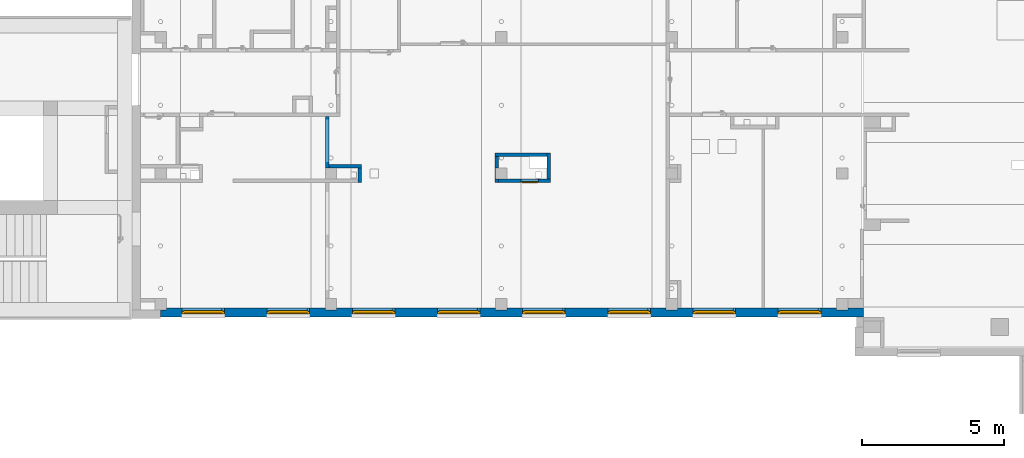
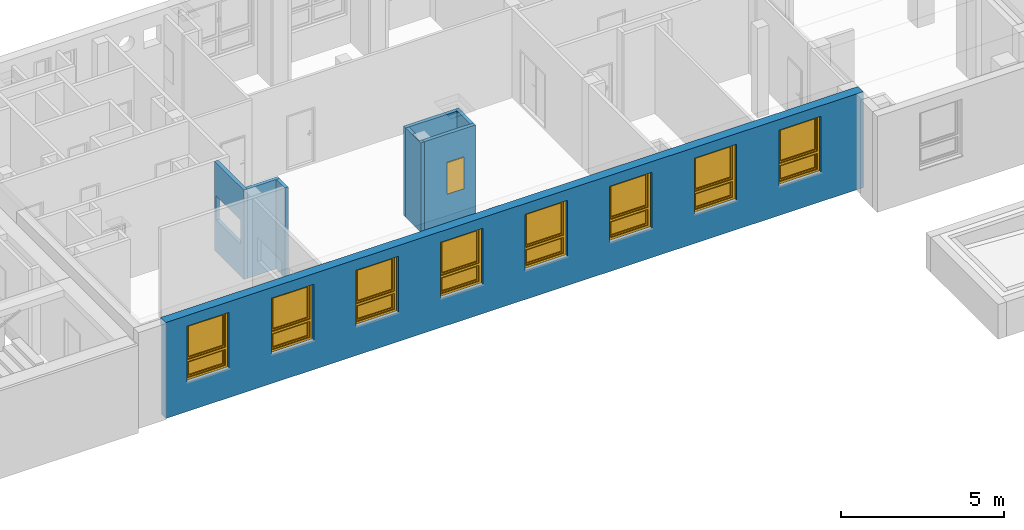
# One storey, part 12 of 50: 9 windows, 8 walls, 10 openings.
"""IFC4 building model written with IfcOpenShell, lengths in metres."""

from ifc_helpers import new_model, entity, si_unit, converted_unit, derived_unit, frame, frame_2d, origin, origin_with_axes, place, context, subcontext, project, spatial, polyline, rectangle, outline, extrude, clip, bounded_halfspace, closed_shell, open_shell, faceted_brep, surface_model, source, transform, mapped, material, layer, layer_set, layer_usage, element, fill, save


model = new_model("IFC4")

# Units and contexts
model_context = context("Model", 3, precision=1e-05, world=origin())
body_context = subcontext(model_context, "Body", "Model", "MODEL_VIEW")
ifc_project = project(units=[si_unit("LENGTHUNIT", "METRE"), si_unit("AREAUNIT", "SQUARE_METRE"), si_unit("VOLUMEUNIT", "CUBIC_METRE"), si_unit("MASSUNIT", "GRAM", prefix="KILO"), converted_unit("PLANEANGLEUNIT", "DEGREE", entity("IfcPlaneAngleMeasure", 0.0174532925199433), si_unit("PLANEANGLEUNIT", "RADIAN"), dimensions=[0, 0, 0, 0, 0, 0, 0]), derived_unit("THERMALTRANSMITTANCEUNIT", [(si_unit("POWERUNIT", "WATT"), 1), (si_unit("THERMODYNAMICTEMPERATUREUNIT", "KELVIN"), -1), (si_unit("LENGTHUNIT", "METRE"), -2)]), derived_unit("VOLUMETRICFLOWRATEUNIT", [(si_unit("LENGTHUNIT", "METRE"), 3), (converted_unit("TIMEUNIT", "hour", entity("IfcTimeMeasure", 3600.0), si_unit("TIMEUNIT", "SECOND"), dimensions=[0, 0, 1, 0, 0, 0, 0]), -1), (si_unit("LENGTHUNIT", "METRE"), -1)])], contexts=[model_context])

# Site, building, storey
site_placement = place(None, origin())
site = spatial("IfcSite", under=ifc_project, at=site_placement, Name="3. ASŘ", CompositionType="ELEMENT")
building_placement = place(site_placement, origin())
building = spatial("IfcBuilding", under=site, at=building_placement, Name="Pavilon C", CompositionType="ELEMENT")
storey_placement = place(building_placement, frame((0.0, 0.0, 3.6)))
storey = spatial("IfcBuildingStorey", under=building, at=storey_placement, Name="Půdorys 2.NP", CompositionType="ELEMENT", Elevation=3.6)

# Wall, openings, windows
ifc_material_1 = material(Name="ZELEZOBETONOVÁ KCE")
ifc_layer_1 = layer(ifc_material_1, 0.32)
ifc_layer_set_1 = layer_set([ifc_layer_1])
ifc_layer_usage_1 = layer_usage(ifc_layer_set_1, "AXIS2", "POSITIVE", 0.0)
wall_1_placement = place(storey_placement, frame((3.86535248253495e-15, 0.350000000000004, -0.1)))
wall_1 = element("IfcWall", 1, at=wall_1_placement, inside=storey, material=ifc_layer_usage_1, Name="ZELEZOBETONOVÁ KCE", context=body_context, shape_type="Clipping", body=[
    clip(clip(clip(clip(clip(extrude(rectangle(XDim=24.75, YDim=0.32, at=frame_2d((12.375, 0.16), x_axis=(1.0, 0.0))), origin_with_axes(), (0.0, 0.0, 1.0), 3.6), bounded_halfspace(frame((0.100000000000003, 0.285, 3.35), z_axis=(0.0, 0.0, 1.0), x_axis=(1.0, 0.0, 0.0)), True, origin_with_axes(), polyline([(-2.27373675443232e-16, 0.25), (0.200000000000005, 0.25), (0.200000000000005, 0.32), (-2.27373675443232e-16, 0.32), (-2.27373675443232e-16, 0.25)]))), bounded_halfspace(frame((24.0, 0.284999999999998, 3.35), z_axis=(0.0, 0.0, 1.0), x_axis=(0.0, -1.0, 0.0)), True, origin_with_axes(), polyline([(23.8, 0.32), (23.8, 0.249999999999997), (24.2, 0.249999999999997), (24.2, 0.32), (23.8, 0.32)]))), bounded_halfspace(frame((12.0, 0.284999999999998, 3.35), z_axis=(0.0, 0.0, 1.0), x_axis=(0.0, -1.0, 0.0)), True, origin_with_axes(), polyline([(11.8, 0.32), (11.8, 0.249999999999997), (12.2, 0.249999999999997), (12.2, 0.32), (11.8, 0.32)]))), bounded_halfspace(frame((6.00000000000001, 0.284999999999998, 3.35), z_axis=(0.0, 0.0, 1.0), x_axis=(-1.0, 0.0, 0.0)), True, origin_with_axes(), polyline([(6.20000000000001, 0.32), (5.80000000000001, 0.32), (5.80000000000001, 0.249999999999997), (6.20000000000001, 0.249999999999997), (6.20000000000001, 0.32)]))), bounded_halfspace(frame((18.0, 0.284999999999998, 3.35), z_axis=(0.0, 0.0, 1.0), x_axis=(-1.0, 0.0, 0.0)), True, origin_with_axes(), polyline([(18.2, 0.32), (17.8, 0.32), (17.8, 0.249999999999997), (18.2, 0.249999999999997), (18.2, 0.32)]))),
])
opening_1_placement = place(wall_1_placement, frame((0.75, 0.0, 1.1), z_axis=(0.0, 1.0, 0.0), x_axis=(0.0, 0.0, 1.0)))
opening_1 = element("IfcOpeningElement", 2, at=opening_1_placement, cuts=wall_1, Name="Okenní otvor", ObjectType="Opening", context=body_context, shape_type="SweptSolid", body=[
    extrude(outline(polyline([(0.0, 1.5), (2.1, 1.5), (2.1, 0.0), (0.0, 0.0), (0.0, 1.5)])), origin_with_axes(), (0.0, 0.0, 1.0), 0.32),
])
opening_2_placement = place(wall_1_placement, frame((21.75, 0.0, 1.1), z_axis=(0.0, 1.0, 0.0), x_axis=(0.0, 0.0, 1.0)))
opening_2 = element("IfcOpeningElement", 3, at=opening_2_placement, cuts=wall_1, Name="Okenní otvor", ObjectType="Opening", context=body_context, shape_type="SweptSolid", body=[
    extrude(outline(polyline([(0.0, 1.5), (2.1, 1.5), (2.1, 0.0), (0.0, 0.0), (0.0, 1.5)])), origin_with_axes(), (0.0, 0.0, 1.0), 0.32),
])
opening_3_placement = place(wall_1_placement, frame((3.75, 0.0, 1.1), z_axis=(0.0, 1.0, 0.0), x_axis=(0.0, 0.0, 1.0)))
opening_3 = element("IfcOpeningElement", 4, at=opening_3_placement, cuts=wall_1, Name="Okenní otvor", ObjectType="Opening", context=body_context, shape_type="SweptSolid", body=[
    extrude(outline(polyline([(0.0, 1.5), (2.1, 1.5), (2.1, 0.0), (0.0, 0.0), (0.0, 1.5)])), origin_with_axes(), (0.0, 0.0, 1.0), 0.32),
])
opening_4_placement = place(wall_1_placement, frame((6.75, 0.0, 1.1), z_axis=(0.0, 1.0, 0.0), x_axis=(0.0, 0.0, 1.0)))
opening_4 = element("IfcOpeningElement", 5, at=opening_4_placement, cuts=wall_1, Name="Okenní otvor", ObjectType="Opening", context=body_context, shape_type="SweptSolid", body=[
    extrude(outline(polyline([(0.0, 1.5), (2.1, 1.5), (2.1, 0.0), (0.0, 0.0), (0.0, 1.5)])), origin_with_axes(), (0.0, 0.0, 1.0), 0.32),
])
opening_5_placement = place(wall_1_placement, frame((9.75, 0.0, 1.1), z_axis=(0.0, 1.0, 0.0), x_axis=(0.0, 0.0, 1.0)))
opening_5 = element("IfcOpeningElement", 6, at=opening_5_placement, cuts=wall_1, Name="Okenní otvor", ObjectType="Opening", context=body_context, shape_type="SweptSolid", body=[
    extrude(outline(polyline([(0.0, 1.5), (2.1, 1.5), (2.1, 0.0), (0.0, 0.0), (0.0, 1.5)])), origin_with_axes(), (0.0, 0.0, 1.0), 0.32),
])
opening_6_placement = place(wall_1_placement, frame((12.75, 0.0, 1.1), z_axis=(0.0, 1.0, 0.0), x_axis=(0.0, 0.0, 1.0)))
opening_6 = element("IfcOpeningElement", 7, at=opening_6_placement, cuts=wall_1, Name="Okenní otvor", ObjectType="Opening", context=body_context, shape_type="SweptSolid", body=[
    extrude(outline(polyline([(0.0, 1.5), (2.1, 1.5), (2.1, 0.0), (0.0, 0.0), (0.0, 1.5)])), origin_with_axes(), (0.0, 0.0, 1.0), 0.32),
])
opening_7_placement = place(wall_1_placement, frame((15.75, 0.0, 1.1), z_axis=(0.0, 1.0, 0.0), x_axis=(0.0, 0.0, 1.0)))
opening_7 = element("IfcOpeningElement", 8, at=opening_7_placement, cuts=wall_1, Name="Okenní otvor", ObjectType="Opening", context=body_context, shape_type="SweptSolid", body=[
    extrude(outline(polyline([(0.0, 1.5), (2.1, 1.5), (2.1, 0.0), (0.0, 0.0), (0.0, 1.5)])), origin_with_axes(), (0.0, 0.0, 1.0), 0.32),
])
opening_8_placement = place(wall_1_placement, frame((18.75, 0.0, 1.1), z_axis=(0.0, 1.0, 0.0), x_axis=(0.0, 0.0, 1.0)))
opening_8 = element("IfcOpeningElement", 9, at=opening_8_placement, cuts=wall_1, Name="Okenní otvor", ObjectType="Opening", context=body_context, shape_type="SweptSolid", body=[
    extrude(outline(polyline([(0.0, 1.5), (2.1, 1.5), (2.1, 0.0), (0.0, 0.0), (0.0, 1.5)])), origin_with_axes(), (0.0, 0.0, 1.0), 0.32),
])
shared_shape_1 = source(origin_with_axes(), body_context, "Body", "SurfaceModel", [
    surface_model("IfcShellBasedSurfaceModel", [(0.0, 0.182, 2.1), (0.0, 0.182, -5.63337527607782e-18), (0.08, 0.182, -5.63337527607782e-18), (0.08, 0.182, 2.1), (0.0, 0.0899999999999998, 5.63337527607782e-18), (0.0, 0.0900000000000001, 2.1), (0.08, 0.0900000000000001, 2.1), (0.08, 0.0899999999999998, 5.63337527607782e-18)], [closed_shell([[[0, 1, 2, 3]], [[4, 5, 6, 7]], [[1, 0, 5, 4]], [[2, 1, 4, 7]], [[3, 2, 7, 6]], [[0, 3, 6, 5]]], orient=[[False], [False], [False], [False], [False], [False]])]),
    surface_model("IfcShellBasedSurfaceModel", [(1.42, 0.182, 2.1), (1.42, 0.182, -5.63337527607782e-18), (1.5, 0.182, -5.63337527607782e-18), (1.5, 0.182, 2.1), (1.42, 0.0899999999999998, 5.63337527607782e-18), (1.42, 0.0900000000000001, 2.1), (1.5, 0.0900000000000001, 2.1), (1.5, 0.0899999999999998, 5.63337527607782e-18)], [closed_shell([[[0, 1, 2, 3]], [[4, 5, 6, 7]], [[1, 0, 5, 4]], [[2, 1, 4, 7]], [[3, 2, 7, 6]], [[0, 3, 6, 5]]], orient=[[False], [False], [False], [False], [False], [False]])]),
    surface_model("IfcShellBasedSurfaceModel", [(0.08, 0.182, 0.08), (0.08, 0.182, -5.63337527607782e-18), (1.42, 0.182, -5.63337527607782e-18), (1.42, 0.182, 0.08), (0.08, 0.0899999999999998, 5.63337527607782e-18), (0.08, 0.0899999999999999, 0.08), (1.42, 0.0899999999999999, 0.08), (1.42, 0.0899999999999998, 5.63337527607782e-18)], [closed_shell([[[0, 1, 2, 3]], [[4, 5, 6, 7]], [[1, 0, 5, 4]], [[2, 1, 4, 7]], [[3, 2, 7, 6]], [[0, 3, 6, 5]]], orient=[[False], [False], [False], [False], [False], [False]])]),
    surface_model("IfcShellBasedSurfaceModel", [(0.08, 0.182, 2.1), (0.08, 0.182, 2.02), (1.42, 0.182, 2.02), (1.42, 0.182, 2.1), (0.08, 0.0900000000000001, 2.02), (0.08, 0.0900000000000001, 2.1), (1.42, 0.0900000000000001, 2.1), (1.42, 0.0900000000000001, 2.02)], [closed_shell([[[0, 1, 2, 3]], [[4, 5, 6, 7]], [[1, 0, 5, 4]], [[2, 1, 4, 7]], [[3, 2, 7, 6]], [[0, 3, 6, 5]]], orient=[[False], [False], [False], [False], [False], [False]])]),
    surface_model("IfcShellBasedSurfaceModel", [(0.08, 0.182, 0.76), (0.08, 0.182, 0.68), (1.42, 0.182, 0.68), (1.42, 0.182, 0.76), (0.08, 0.0899999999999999, 0.68), (0.08, 0.0899999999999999, 0.76), (1.42, 0.0899999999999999, 0.76), (1.42, 0.0899999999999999, 0.68)], [closed_shell([[[0, 1, 2, 3]], [[4, 5, 6, 7]], [[1, 0, 5, 4]], [[2, 1, 4, 7]], [[3, 2, 7, 6]], [[0, 3, 6, 5]]], orient=[[False], [False], [False], [False], [False], [False]])]),
    surface_model("IfcShellBasedSurfaceModel", [(0.05, 0.145, 0.71), (0.05, 0.145, 0.05), (0.13, 0.145, 0.05), (0.13, 0.145, 0.71), (0.05, 0.0599999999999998, 0.05), (0.05, 0.0599999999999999, 0.71), (0.13, 0.0599999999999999, 0.71), (0.13, 0.0599999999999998, 0.05)], [closed_shell([[[0, 1, 2, 3]], [[4, 5, 6, 7]], [[1, 0, 5, 4]], [[2, 1, 4, 7]], [[3, 2, 7, 6]], [[0, 3, 6, 5]]], orient=[[False], [False], [False], [False], [False], [False]])]),
    surface_model("IfcShellBasedSurfaceModel", [(1.37, 0.145, 0.71), (1.37, 0.145, 0.05), (1.45, 0.145, 0.05), (1.45, 0.145, 0.71), (1.37, 0.0599999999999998, 0.05), (1.37, 0.0599999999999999, 0.71), (1.45, 0.0599999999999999, 0.71), (1.45, 0.0599999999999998, 0.05)], [closed_shell([[[0, 1, 2, 3]], [[4, 5, 6, 7]], [[1, 0, 5, 4]], [[2, 1, 4, 7]], [[3, 2, 7, 6]], [[0, 3, 6, 5]]], orient=[[False], [False], [False], [False], [False], [False]])]),
    surface_model("IfcShellBasedSurfaceModel", [(0.13, 0.145, 0.13), (0.13, 0.145, 0.05), (1.37, 0.145, 0.05), (1.37, 0.145, 0.13), (0.13, 0.0599999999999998, 0.05), (0.13, 0.0599999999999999, 0.13), (1.37, 0.0599999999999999, 0.13), (1.37, 0.0599999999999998, 0.05)], [closed_shell([[[0, 1, 2, 3]], [[4, 5, 6, 7]], [[1, 0, 5, 4]], [[2, 1, 4, 7]], [[3, 2, 7, 6]], [[0, 3, 6, 5]]], orient=[[False], [False], [False], [False], [False], [False]])]),
    surface_model("IfcShellBasedSurfaceModel", [(0.13, 0.145, 0.71), (0.13, 0.145, 0.63), (1.37, 0.145, 0.63), (1.37, 0.145, 0.71), (0.13, 0.0599999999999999, 0.63), (0.13, 0.0599999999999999, 0.71), (1.37, 0.0599999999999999, 0.71), (1.37, 0.0599999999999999, 0.63)], [closed_shell([[[0, 1, 2, 3]], [[4, 5, 6, 7]], [[1, 0, 5, 4]], [[2, 1, 4, 7]], [[3, 2, 7, 6]], [[0, 3, 6, 5]]], orient=[[False], [False], [False], [False], [False], [False]])]),
    surface_model("IfcShellBasedSurfaceModel", [(0.05, 0.145, 2.05), (0.05, 0.145, 0.73), (0.13, 0.145, 0.73), (0.13, 0.145, 2.05), (0.05, 0.0599999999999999, 0.73), (0.05, 0.0600000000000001, 2.05), (0.13, 0.0600000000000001, 2.05), (0.13, 0.0599999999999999, 0.73)], [closed_shell([[[0, 1, 2, 3]], [[4, 5, 6, 7]], [[1, 0, 5, 4]], [[2, 1, 4, 7]], [[3, 2, 7, 6]], [[0, 3, 6, 5]]], orient=[[False], [False], [False], [False], [False], [False]])]),
    surface_model("IfcShellBasedSurfaceModel", [(1.37, 0.145, 2.05), (1.37, 0.145, 0.73), (1.45, 0.145, 0.73), (1.45, 0.145, 2.05), (1.37, 0.0599999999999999, 0.73), (1.37, 0.0600000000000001, 2.05), (1.45, 0.0600000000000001, 2.05), (1.45, 0.0599999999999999, 0.73)], [closed_shell([[[0, 1, 2, 3]], [[4, 5, 6, 7]], [[1, 0, 5, 4]], [[2, 1, 4, 7]], [[3, 2, 7, 6]], [[0, 3, 6, 5]]], orient=[[False], [False], [False], [False], [False], [False]])]),
    surface_model("IfcShellBasedSurfaceModel", [(0.13, 0.145, 0.81), (0.13, 0.145, 0.73), (1.37, 0.145, 0.73), (1.37, 0.145, 0.81), (0.13, 0.0599999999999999, 0.73), (0.13, 0.0599999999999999, 0.81), (1.37, 0.0599999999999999, 0.81), (1.37, 0.0599999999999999, 0.73)], [closed_shell([[[0, 1, 2, 3]], [[4, 5, 6, 7]], [[1, 0, 5, 4]], [[2, 1, 4, 7]], [[3, 2, 7, 6]], [[0, 3, 6, 5]]], orient=[[False], [False], [False], [False], [False], [False]])]),
    surface_model("IfcShellBasedSurfaceModel", [(0.13, 0.145, 2.05), (0.13, 0.145, 1.97), (1.37, 0.145, 1.97), (1.37, 0.145, 2.05), (0.13, 0.0600000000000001, 1.97), (0.13, 0.0600000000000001, 2.05), (1.37, 0.0600000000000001, 2.05), (1.37, 0.0600000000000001, 1.97)], [closed_shell([[[0, 1, 2, 3]], [[4, 5, 6, 7]], [[1, 0, 5, 4]], [[2, 1, 4, 7]], [[3, 2, 7, 6]], [[0, 3, 6, 5]]], orient=[[False], [False], [False], [False], [False], [False]])]),
    surface_model("IfcShellBasedSurfaceModel", [(0.0775, 0.06, 1.41), (0.0775, 0.06, 1.37), (0.1025, 0.06, 1.37), (0.1025, 0.06, 1.41), (0.0775, 0.05, 1.37), (0.0775, 0.05, 1.41), (0.1025, 0.05, 1.41), (0.1025, 0.05, 1.37)], [closed_shell([[[0, 1, 2, 3]], [[4, 5, 6, 7]], [[1, 0, 5, 4]], [[2, 1, 4, 7]], [[3, 2, 7, 6]], [[0, 3, 6, 5]]], orient=[[False], [False], [False], [False], [False], [False]])]),
    surface_model("IfcShellBasedSurfaceModel", [(0.1, 0.05, 1.39), (0.0986602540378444, 0.05, 1.395), (0.095, 0.05, 1.39866025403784), (0.09, 0.05, 1.4), (0.085, 0.05, 1.39866025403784), (0.0813397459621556, 0.05, 1.395), (0.08, 0.05, 1.39), (0.0813397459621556, 0.05, 1.385), (0.085, 0.05, 1.38133974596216), (0.09, 0.05, 1.38), (0.095, 0.05, 1.38133974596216), (0.0986602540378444, 0.05, 1.385), (0.1, 0.01, 1.39), (0.0986602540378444, 0.00500000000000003, 1.395), (0.095, 0.00133974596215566, 1.39866025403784), (0.09, 2.8421709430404e-17, 1.4), (0.085, 0.00133974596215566, 1.39866025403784), (0.0813397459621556, 0.00500000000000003, 1.395), (0.08, 0.01, 1.39), (0.0813397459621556, 0.015, 1.385), (0.085, 0.0186602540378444, 1.38133974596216), (0.09, 0.02, 1.38), (0.095, 0.0186602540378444, 1.38133974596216), (0.0986602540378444, 0.015, 1.385), (0.1, 0.01, 1.275), (0.0986602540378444, 0.005, 1.275), (0.095, 0.00133974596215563, 1.275), (0.09, 0.0, 1.275), (0.085, 0.00133974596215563, 1.275), (0.0813397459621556, 0.005, 1.275), (0.08, 0.01, 1.275), (0.0813397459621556, 0.015, 1.275), (0.085, 0.0186602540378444, 1.275), (0.09, 0.02, 1.275), (0.095, 0.0186602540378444, 1.275), (0.0986602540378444, 0.015, 1.275)], [open_shell([[[0, 1, 2, 3, 4, 5, 6, 7, 8, 9, 10, 11]], [[0, 12, 13, 1]], [[1, 13, 14, 2]], [[2, 14, 15, 3]], [[3, 15, 16, 4]], [[4, 16, 17, 5]], [[5, 17, 18, 6]], [[6, 18, 19, 7]], [[7, 19, 20, 8]], [[8, 20, 21, 9]], [[9, 21, 22, 10]], [[10, 22, 23, 11]], [[11, 23, 12, 0]], [[12, 24, 25, 13]], [[13, 25, 26, 14]], [[14, 26, 27, 15]], [[15, 27, 28, 16]], [[16, 28, 29, 17]], [[17, 29, 30, 18]], [[18, 30, 31, 19]], [[19, 31, 32, 20]], [[20, 32, 33, 21]], [[21, 33, 34, 22]], [[22, 34, 35, 23]], [[23, 35, 24, 12]]], orient=[[False], [False], [False], [False], [False], [False], [False], [False], [False], [False], [False], [False], [False], [False], [False], [False], [False], [False], [False], [False], [False], [False], [False], [False], [False]])]),
    surface_model("IfcShellBasedSurfaceModel", [(0.13, 0.1025, 0.13), (1.37, 0.1025, 0.13), (1.37, 0.1025, 0.63), (0.13, 0.1025, 0.63)], [open_shell([[[0, 1, 2, 3]]], orient=[[False]])]),
    surface_model("IfcShellBasedSurfaceModel", [(0.13, 0.1025, 0.81), (1.37, 0.1025, 0.81), (1.37, 0.1025, 1.97), (0.13, 0.1025, 1.97)], [open_shell([[[0, 1, 2, 3]]], orient=[[False]])]),
])
window_1_placement = place(opening_1_placement, frame((0.0, 1.5, 0.282), z_axis=(1.0, 0.0, 0.0), x_axis=(0.0, -1.0, 1.22464679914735e-16)))
window_1 = element("IfcWindow", 10, at=window_1_placement, inside=storey, Name="O06", OverallHeight=2.1, OverallWidth=1.5, PartitioningType="USERDEFINED", PredefinedType="WINDOW", context=body_context, shape_type="MappedRepresentation", body=[
    mapped(shared_shape_1, transform((0.0, 0.0, 0.0), x_axis=(1.0, 0.0, 0.0), y_axis=(0.0, 1.0, 0.0), z_axis=(0.0, 0.0, 1.0), scale=1.0)),
])
fill(opening_1, window_1)
window_2_placement = place(opening_2_placement, frame((0.0, 1.5, 0.282), z_axis=(1.0, 0.0, 0.0), x_axis=(0.0, -1.0, 1.22464679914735e-16)))
window_2 = element("IfcWindow", 11, at=window_2_placement, inside=storey, Name="O06", OverallHeight=2.1, OverallWidth=1.5, PartitioningType="USERDEFINED", PredefinedType="WINDOW", context=body_context, shape_type="MappedRepresentation", body=[
    mapped(shared_shape_1, transform((0.0, 0.0, 0.0), x_axis=(1.0, 0.0, 0.0), y_axis=(0.0, 1.0, 0.0), z_axis=(0.0, 0.0, 1.0), scale=1.0)),
])
fill(opening_2, window_2)
window_3_placement = place(opening_3_placement, frame((0.0, 1.5, 0.282), z_axis=(1.0, 0.0, 0.0), x_axis=(0.0, -1.0, 1.22464679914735e-16)))
window_3 = element("IfcWindow", 12, at=window_3_placement, inside=storey, Name="O06", OverallHeight=2.1, OverallWidth=1.5, PartitioningType="USERDEFINED", PredefinedType="WINDOW", context=body_context, shape_type="MappedRepresentation", body=[
    mapped(shared_shape_1, transform((0.0, 0.0, 0.0), x_axis=(1.0, 0.0, 0.0), y_axis=(0.0, 1.0, 0.0), z_axis=(0.0, 0.0, 1.0), scale=1.0)),
])
fill(opening_3, window_3)
window_4_placement = place(opening_4_placement, frame((0.0, 1.5, 0.282), z_axis=(1.0, 0.0, 0.0), x_axis=(0.0, -0.999999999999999, 1.22464679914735e-16)))
window_4 = element("IfcWindow", 13, at=window_4_placement, inside=storey, Name="O06", OverallHeight=2.1, OverallWidth=1.5, PartitioningType="USERDEFINED", PredefinedType="WINDOW", context=body_context, shape_type="MappedRepresentation", body=[
    mapped(shared_shape_1, transform((0.0, 0.0, 0.0), x_axis=(1.0, 0.0, 0.0), y_axis=(0.0, 1.0, 0.0), z_axis=(0.0, 0.0, 1.0), scale=0.999999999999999)),
])
fill(opening_4, window_4)
window_5_placement = place(opening_5_placement, frame((0.0, 1.5, 0.282), z_axis=(1.0, 0.0, 0.0), x_axis=(0.0, -1.0, 1.22464679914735e-16)))
window_5 = element("IfcWindow", 14, at=window_5_placement, inside=storey, Name="O06", OverallHeight=2.1, OverallWidth=1.5, PartitioningType="USERDEFINED", PredefinedType="WINDOW", context=body_context, shape_type="MappedRepresentation", body=[
    mapped(shared_shape_1, transform((0.0, 0.0, 0.0), x_axis=(1.0, 0.0, 0.0), y_axis=(0.0, 1.0, 0.0), z_axis=(0.0, 0.0, 1.0), scale=1.0)),
])
fill(opening_5, window_5)
window_6_placement = place(opening_6_placement, frame((0.0, 1.5, 0.282), z_axis=(1.0, 0.0, 0.0), x_axis=(0.0, -1.0, 1.22464679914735e-16)))
window_6 = element("IfcWindow", 15, at=window_6_placement, inside=storey, Name="O06", OverallHeight=2.1, OverallWidth=1.5, PartitioningType="USERDEFINED", PredefinedType="WINDOW", context=body_context, shape_type="MappedRepresentation", body=[
    mapped(shared_shape_1, transform((0.0, 0.0, 0.0), x_axis=(1.0, 0.0, 0.0), y_axis=(0.0, 1.0, 0.0), z_axis=(0.0, 0.0, 1.0), scale=1.0)),
])
fill(opening_6, window_6)
window_7_placement = place(opening_7_placement, frame((0.0, 1.5, 0.282), z_axis=(1.0, 0.0, 0.0), x_axis=(0.0, -1.0, 1.22464679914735e-16)))
window_7 = element("IfcWindow", 16, at=window_7_placement, inside=storey, Name="O06", OverallHeight=2.1, OverallWidth=1.5, PartitioningType="USERDEFINED", PredefinedType="WINDOW", context=body_context, shape_type="MappedRepresentation", body=[
    mapped(shared_shape_1, transform((0.0, 0.0, 0.0), x_axis=(1.0, 0.0, 0.0), y_axis=(0.0, 1.0, 0.0), z_axis=(0.0, 0.0, 1.0), scale=1.0)),
])
fill(opening_7, window_7)
window_8_placement = place(opening_8_placement, frame((0.0, 1.5, 0.282), z_axis=(1.0, 0.0, 0.0), x_axis=(0.0, -1.0, 1.22464679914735e-16)))
window_8 = element("IfcWindow", 17, at=window_8_placement, inside=storey, Name="O06", OverallHeight=2.1, OverallWidth=1.5, PartitioningType="USERDEFINED", PredefinedType="WINDOW", context=body_context, shape_type="MappedRepresentation", body=[
    mapped(shared_shape_1, transform((0.0, 0.0, 0.0), x_axis=(1.0, 0.0, 0.0), y_axis=(0.0, 1.0, 0.0), z_axis=(0.0, 0.0, 1.0), scale=1.0)),
])
fill(opening_8, window_8)

# Wall, opening, window
ifc_material_2 = material(Name="ZDIVO Z CDm")
ifc_layer_2 = layer(ifc_material_2, 0.125)
ifc_layer_set_2 = layer_set([ifc_layer_2])
ifc_layer_usage_2 = layer_usage(ifc_layer_set_2, "AXIS2", "POSITIVE", 0.0)
wall_2_placement = place(storey_placement, frame((13.725, 5.2, -0.1), z_axis=(0.0, 0.0, 1.0), x_axis=(-1.0, 0.0, 0.0)))
wall_2 = element("IfcWall", 18, at=wall_2_placement, inside=storey, material=ifc_layer_usage_2, Name="ZDIVO Z CDm", context=body_context, shape_type="SweptSolid", body=[
    extrude(rectangle(XDim=1.825, YDim=0.125, at=frame_2d((0.9125, 0.0625), x_axis=(1.0, 0.0))), origin_with_axes(), (0.0, 0.0, 1.0), 3.35),
])
opening_9_placement = place(wall_2_placement, frame((1.025, 0.125, 1.1), z_axis=(0.0, -1.0, 0.0), x_axis=(0.0, 0.0, 1.0)))
opening_9 = element("IfcOpeningElement", 19, at=opening_9_placement, cuts=wall_2, Name="Okenní otvor", ObjectType="Opening", context=body_context, shape_type="SweptSolid", body=[
    extrude(outline(polyline([(0.0, 0.6), (1.2, 0.6), (1.2, 0.0), (0.0, 0.0), (0.0, 0.6)])), origin_with_axes(), (0.0, 0.0, 1.0), 0.125),
])
shared_shape_2 = source(origin_with_axes(), body_context, "Body", "Brep", [
    faceted_brep([(0.0, 0.0600000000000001, 1.2), (0.0, 0.06, 4.91096680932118e-19), (0.02, 0.06, 4.91096680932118e-19), (0.02, 0.0600000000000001, 1.2), (0.0, 0.01, 6.61433067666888e-18), (0.0, 0.0100000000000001, 1.2), (0.02, 0.0100000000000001, 1.2), (0.02, 0.01, 6.61433067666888e-18)], [[[0, 1, 2, 3]], [[4, 5, 6, 7]], [[1, 0, 5, 4]], [[2, 1, 4, 7]], [[3, 2, 7, 6]], [[0, 3, 6, 5]]], orient=[[False], [False], [False], [False], [False], [False]]),
    faceted_brep([(0.58, 0.0600000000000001, 1.2), (0.58, 0.06, 4.91096680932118e-19), (0.6, 0.06, 4.91096680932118e-19), (0.6, 0.0600000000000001, 1.2), (0.58, 0.01, 6.61433067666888e-18), (0.58, 0.0100000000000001, 1.2), (0.6, 0.0100000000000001, 1.2), (0.6, 0.01, 6.61433067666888e-18)], [[[0, 1, 2, 3]], [[4, 5, 6, 7]], [[1, 0, 5, 4]], [[2, 1, 4, 7]], [[3, 2, 7, 6]], [[0, 3, 6, 5]]], orient=[[False], [False], [False], [False], [False], [False]]),
    faceted_brep([(0.02, 0.06, 0.02), (0.02, 0.06, 4.91096680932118e-19), (0.58, 0.06, 4.91096680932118e-19), (0.58, 0.06, 0.02), (0.02, 0.01, 6.61433067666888e-18), (0.02, 0.01, 0.02), (0.58, 0.01, 0.02), (0.58, 0.01, 6.61433067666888e-18)], [[[0, 1, 2, 3]], [[4, 5, 6, 7]], [[1, 0, 5, 4]], [[2, 1, 4, 7]], [[3, 2, 7, 6]], [[0, 3, 6, 5]]], orient=[[False], [False], [False], [False], [False], [False]]),
    faceted_brep([(0.02, 0.0600000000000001, 1.2), (0.02, 0.0600000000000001, 1.18), (0.58, 0.0600000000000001, 1.18), (0.58, 0.0600000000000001, 1.2), (0.02, 0.0100000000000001, 1.18), (0.02, 0.0100000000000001, 1.2), (0.58, 0.0100000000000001, 1.2), (0.58, 0.0100000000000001, 1.18)], [[[0, 1, 2, 3]], [[4, 5, 6, 7]], [[1, 0, 5, 4]], [[2, 1, 4, 7]], [[3, 2, 7, 6]], [[0, 3, 6, 5]]], orient=[[False], [False], [False], [False], [False], [False]]),
    faceted_brep([(0.02, 0.0100000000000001, 1.18), (0.02, 0.01, 0.02), (0.58, 0.01, 0.02), (0.58, 0.0100000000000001, 1.18), (0.02, 0.0, 0.02), (0.02, 1.4210854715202e-16, 1.18), (0.58, 1.4210854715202e-16, 1.18), (0.58, 0.0, 0.02)], [[[0, 1, 2, 3]], [[4, 5, 6, 7]], [[1, 0, 5, 4]], [[2, 1, 4, 7]], [[3, 2, 7, 6]], [[0, 3, 6, 5]]], orient=[[False], [False], [False], [False], [False], [False]]),
])
window_9_placement = place(opening_9_placement, frame((0.0, 0.6, -0.01), z_axis=(1.0, 0.0, 0.0), x_axis=(0.0, -1.0, 0.0)))
window_9 = element("IfcWindow", 20, at=window_9_placement, inside=storey, Name="O01", OverallHeight=1.2, OverallWidth=0.6, PartitioningType="USERDEFINED", PredefinedType="WINDOW", context=body_context, shape_type="MappedRepresentation", body=[
    mapped(shared_shape_2, transform((0.0, 0.0, 0.0), x_axis=(1.0, 0.0, 0.0), y_axis=(0.0, -1.0, 0.0), z_axis=(0.0, 0.0, 1.0), scale=1.0)),
])
fill(opening_9, window_9)

# Walls
ifc_material_3 = material(Name="ZDIVO Z CDm")
ifc_layer_3 = layer(ifc_material_3, 0.125)
ifc_layer_set_3 = layer_set([ifc_layer_3])
ifc_layer_usage_3 = layer_usage(ifc_layer_set_3, "AXIS2", "POSITIVE", 0.0)
wall_3_placement = place(storey_placement, frame((13.6, 6.125, -0.1), z_axis=(0.0, 0.0, 1.0), x_axis=(0.0, -1.0, 0.0)))
element("IfcWall", 21, at=wall_3_placement, inside=storey, material=ifc_layer_usage_3, Name="ZDIVO Z CDm", context=body_context, shape_type="SweptSolid", body=[
    extrude(rectangle(XDim=0.925, YDim=0.125, at=frame_2d((0.4625, 0.0625), x_axis=(1.0, 0.0))), origin_with_axes(), (0.0, 0.0, 1.0), 3.35),
])
ifc_material_4 = material(Name="ZDIVO Z CDm")
ifc_layer_4 = layer(ifc_material_4, 0.125)
ifc_layer_set_4 = layer_set([ifc_layer_4])
ifc_layer_usage_4 = layer_usage(ifc_layer_set_4, "AXIS2", "POSITIVE", 0.0)
wall_4_placement = place(storey_placement, frame((11.775, 6.0, -0.1)))
element("IfcWall", 22, at=wall_4_placement, inside=storey, material=ifc_layer_usage_4, Name="ZDIVO Z CDm", context=body_context, shape_type="SweptSolid", body=[
    extrude(rectangle(XDim=1.825, YDim=0.125, at=frame_2d((0.9125, 0.0625), x_axis=(1.0, 0.0))), origin_with_axes(), (0.0, 0.0, 1.0), 3.35),
])
ifc_material_5 = material(Name="ZDIVO Z CDm")
ifc_layer_5 = layer(ifc_material_5, 0.125)
ifc_layer_set_5 = layer_set([ifc_layer_5])
ifc_layer_usage_5 = layer_usage(ifc_layer_set_5, "AXIS2", "POSITIVE", 0.0)
wall_5_placement = place(storey_placement, frame((11.9, 5.075, -0.1), z_axis=(0.0, 0.0, 1.0), x_axis=(0.0, 1.0, 0.0)))
element("IfcWall", 23, at=wall_5_placement, inside=storey, material=ifc_layer_usage_5, Name="ZDIVO Z CDm", context=body_context, shape_type="SweptSolid", body=[
    extrude(outline(polyline([(0.525, -0.125), (0.925, -0.125), (0.925, 0.0), (0.0, 0.0), (0.0, -0.125), (0.125, -0.125), (0.125, -0.025), (0.525, -0.025), (0.525, -0.125)])), frame((0.0, 0.125, 0.0), z_axis=(0.0, 0.0, 1.0), x_axis=(1.0, 0.0, 0.0)), (0.0, 0.0, 1.0), 3.35),
])

# Wall, opening
ifc_material_6 = material(Name="ZDIVO Z CDm")
ifc_layer_6 = layer(ifc_material_6, 0.125)
ifc_layer_set_6 = layer_set([ifc_layer_6])
ifc_layer_usage_6 = layer_usage(ifc_layer_set_6, "AXIS2", "POSITIVE", 0.0)
wall_6_placement = place(storey_placement, frame((5.80000000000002, 7.4, -0.1), z_axis=(0.0, 0.0, 1.0), x_axis=(0.0, -1.0, 0.0)))
wall_6 = element("IfcWall", 24, at=wall_6_placement, inside=storey, material=ifc_layer_usage_6, Name="ZDIVO Z CDm", context=body_context, shape_type="SweptSolid", body=[
    extrude(rectangle(XDim=1.8, YDim=0.125, at=frame_2d((0.900000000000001, 0.0625), x_axis=(1.0, 0.0))), origin_with_axes(), (0.0, 0.0, 1.0), 3.35),
])
opening_10_placement = place(wall_6_placement, frame((0.1, 0.0, 1.2), z_axis=(0.0, 1.0, 0.0), x_axis=(0.0, 0.0, 1.0)))
element("IfcOpeningElement", 25, at=opening_10_placement, cuts=wall_6, Name="Okenní otvor", ObjectType="Opening", context=body_context, shape_type="SweptSolid", body=[
    extrude(outline(polyline([(0.0, 1.5), (0.9, 1.5), (0.9, 0.0), (0.0, 0.0), (0.0, 1.5)])), origin_with_axes(), (0.0, 0.0, 1.0), 0.125),
])

# Walls
ifc_material_7 = material(Name="ZDIVO Z CDm")
ifc_layer_7 = layer(ifc_material_7, 0.125)
ifc_layer_set_7 = layer_set([ifc_layer_7])
ifc_layer_usage_7 = layer_usage(ifc_layer_set_7, "AXIS2", "POSITIVE", 0.0)
wall_7_placement = place(storey_placement, frame((5.92500000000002, 5.6, -0.1)))
element("IfcWall", 26, at=wall_7_placement, inside=storey, material=ifc_layer_usage_7, Name="ZDIVO Z CDm", context=body_context, shape_type="SweptSolid", body=[
    extrude(rectangle(XDim=1.15, YDim=0.125, at=frame_2d((0.575, 0.0625), x_axis=(1.0, 0.0))), origin_with_axes(), (0.0, 0.0, 1.0), 3.35),
])
ifc_material_8 = material(Name="ZDIVO Z CDm")
ifc_layer_8 = layer(ifc_material_8, 0.125)
ifc_layer_set_8 = layer_set([ifc_layer_8])
ifc_layer_usage_8 = layer_usage(ifc_layer_set_8, "AXIS2", "POSITIVE", 0.0)
wall_8_placement = place(storey_placement, frame((6.95000000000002, 5.6, -0.1), z_axis=(0.0, 0.0, 1.0), x_axis=(0.0, -1.0, 0.0)))
element("IfcWall", 27, at=wall_8_placement, inside=storey, material=ifc_layer_usage_8, Name="ZDIVO Z CDm", context=body_context, shape_type="SweptSolid", body=[
    extrude(rectangle(XDim=0.525, YDim=0.125, at=frame_2d((0.2625, 0.0625), x_axis=(1.0, 0.0))), origin_with_axes(), (0.0, 0.0, 1.0), 3.35),
])

save(model, "model.ifc")
